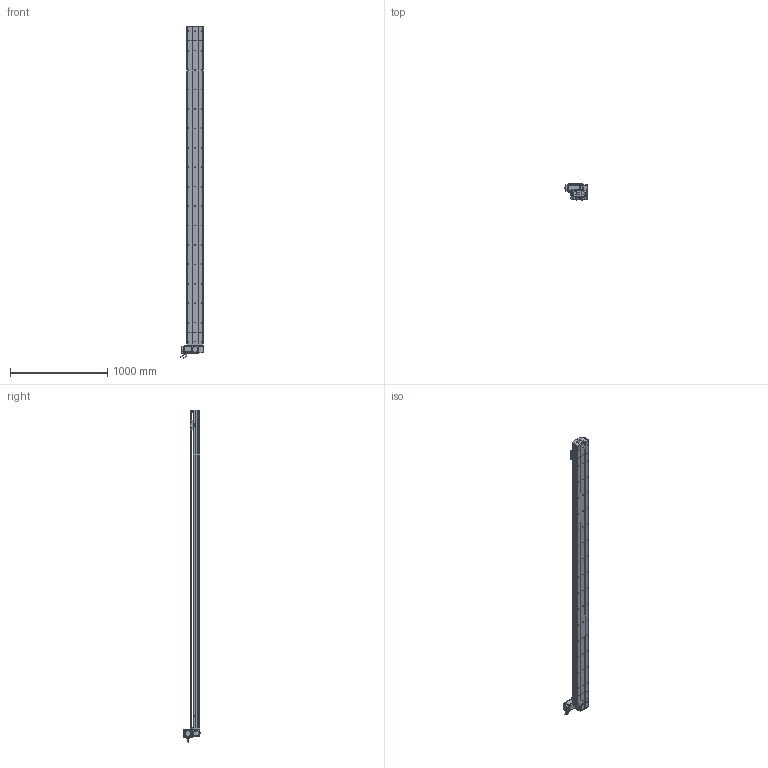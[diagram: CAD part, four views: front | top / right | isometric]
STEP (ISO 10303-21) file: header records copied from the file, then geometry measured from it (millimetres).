
FILE_DESCRIPTION (( 'STEP AP214' ), '1' );
FILE_NAME ('D17 TBN LT S3000.STEP', '2010-06-30T13:26:01', ( 'Conseil Régional Haute-Normandie' ), ( 'Conseil Régional Haute-Normandie' ), 'SwSTEP 2.0', 'SolidWorks 2010', '' );
FILE_SCHEMA (( 'AUTOMOTIVE_DESIGN' ));
Length unit declared in the file: millimetre
Products named in the file (40): Couroie tail D17B_Default; chariot D17 TBN; Rail D17B; Tail D17B_Default; Head LT D17B_Default; corpl head D17 _Default; corp D17B 3000_Default; couvercle D17B_Default; vis M5 L8 90°_Default; Chariot D17 TBN; couvercle D17B course L3000_Default; D17 TBN LT S3000; vis M5 L16_Default; tete d''axe poulie D17B; corpl tail D17B_Default; vis M5 L25_Default; vis M5 L12_Default; guide D17; Plaque racord D17_Default; Conecteur_Default; Conecteur2_Default; vis M5 L70_Default; codeur 90BLDC125-640; corps 90BLDC125A-640; avant 90BLDC125A-640; cache arbre D17_Default; poulie head_Default; vis M5 L5_Default; Moteur motionking 90BLDC125A-640; Renvoi LT_Default; couroie head D17_Default; cache D17_Default; Arbre+rail head D17B; plaque de  bout head D17B LT_Default; couvercle D17B head_Default; Vis M5 L16-2_Default; plaque de  bout tail D17B_Default; poulie tail_Default; course 3000 D17B_Default; Couroie+ rail D17 Course 3000 
Assembly tree (66 placements, depth 4):
  D17 TBN LT S3000
    Head LT D17B_Default
      vis M5 L12_Default  x8
      Renvoi LT_Default
      vis M5 L70_Default  x4
      cache D17_Default  x2
      corpl head D17 _Default
      plaque de  bout head D17B LT_Default
      vis M5 L5_Default  x4
      Vis M5 L16-2_Default  x4
      Moteur motionking 90BLDC125A-640
        corps 90BLDC125A-640
        Conecteur_Default
        Conecteur2_Default
        avant 90BLDC125A-640
        codeur 90BLDC125-640
      Plaque racord D17_Default
      couroie head D17_Default
      Arbre+rail head D17B
      couvercle D17B head_Default
      poulie head_Default
      vis M5 L25_Default  x2
      cache arbre D17_Default
      vis M5 L16_Default  x2
    course 3000 D17B_Default
      corp D17B 3000_Default
      couvercle D17B course L3000_Default
      Couroie+ rail D17 Course 3000 
    chariot D17 TBN
      guide D17  x2
      Chariot D17 TBN
    Tail D17B_Default
      poulie tail_Default
      vis M5 L25_Default  x2
      vis M5 L8 90°_Default  x2
      vis M5 L12_Default  x4
      couvercle D17B_Default
      plaque de  bout tail D17B_Default
      Couroie tail D17B_Default
      Rail D17B
      corpl tail D17B_Default
      tete d''axe poulie D17B
Bounding box: 245.2 x 166.15 x 3417.95 mm (x, y, z)
Volume: 19318758.7 mm3; surface area: 5646831.5 mm2
Topology: 89 solids, 89 shells, 2651 faces, 6825 edges, 4398 vertices
Faces by surface type: plane 1533, cylinder 821, bspline 136, cone 80, torus 77, sphere 4
Entity records: 86411 total; most frequent: CARTESIAN_POINT 25599, ORIENTED_EDGE 10822, DIRECTION 10212, EDGE_CURVE 5411, VERTEX_POINT 3542, VECTOR 3522, LINE 3522, AXIS2_PLACEMENT_3D 3345
